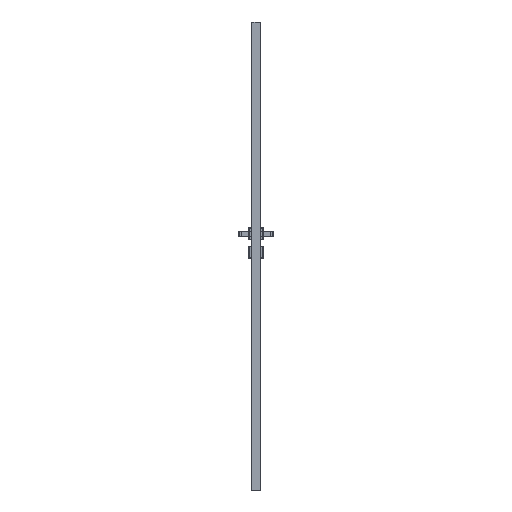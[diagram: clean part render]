
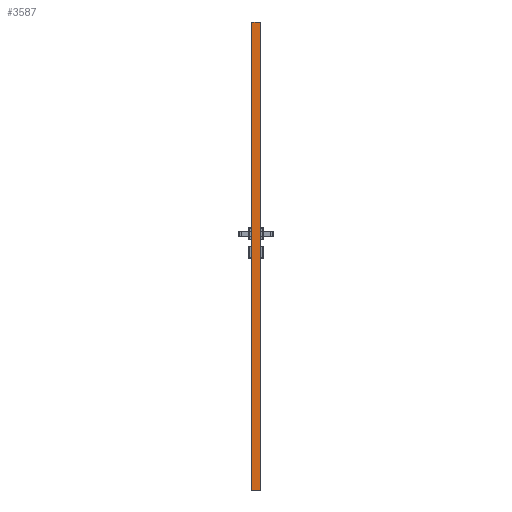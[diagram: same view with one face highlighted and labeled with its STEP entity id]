
A CAD part, left-side view. The second image highlights one B-rep face of the part: STEP entity #3587.
In plain terms, the highlighted planar face has unit normal (-1, 0, 0).
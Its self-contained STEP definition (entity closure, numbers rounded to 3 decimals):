
#3587=ADVANCED_FACE('',(#6958),#5657,.T.);
#5657=PLANE('',#38170);
#6958=FACE_OUTER_BOUND('',#9091,.T.);
#9091=EDGE_LOOP('',(#12385,#12386,#12387,#12388));
#12385=ORIENTED_EDGE('',*,*,#26017,.T.);
#12386=ORIENTED_EDGE('',*,*,#26018,.F.);
#12387=ORIENTED_EDGE('',*,*,#26015,.F.);
#12388=ORIENTED_EDGE('',*,*,#26019,.T.);
#22449=VERTEX_POINT('',#54887);
#22450=VERTEX_POINT('',#54889);
#22451=VERTEX_POINT('',#54893);
#22452=VERTEX_POINT('',#54894);
#26015=EDGE_CURVE('',#22449,#22450,#31084,.T.);
#26017=EDGE_CURVE('',#22451,#22452,#31085,.T.);
#26018=EDGE_CURVE('',#22450,#22452,#31086,.T.);
#26019=EDGE_CURVE('',#22449,#22451,#31087,.T.);
#31084=LINE('',#54888,#34629);
#31085=LINE('',#54892,#34630);
#31086=LINE('',#54895,#34631);
#31087=LINE('',#54896,#34632);
#34629=VECTOR('',#42641,1.);
#34630=VECTOR('',#42646,1.);
#34631=VECTOR('',#42647,1.);
#34632=VECTOR('',#42648,1.);
#38170=AXIS2_PLACEMENT_3D('',#54897,#42649,#42650);
#42641=DIRECTION('',(0.,0.,1.));
#42646=DIRECTION('',(0.,0.,1.));
#42647=DIRECTION('',(0.,-1.,0.));
#42648=DIRECTION('',(0.,-1.,0.));
#42649=DIRECTION('',(-1.,0.,0.));
#42650=DIRECTION('',(0.,-1.,0.));
#54887=CARTESIAN_POINT('',(-309.,-1.65,0.));
#54888=CARTESIAN_POINT('',(-309.,-1.65,0.));
#54889=CARTESIAN_POINT('',(-309.,-1.65,2017.01));
#54892=CARTESIAN_POINT('',(-309.,-38.35,0.));
#54893=CARTESIAN_POINT('',(-309.,-38.35,0.));
#54894=CARTESIAN_POINT('',(-309.,-38.35,2017.01));
#54895=CARTESIAN_POINT('',(-309.,0.,2017.01));
#54896=CARTESIAN_POINT('',(-309.,-1.65,0.));
#54897=CARTESIAN_POINT('',(-309.,-1.65,0.));
